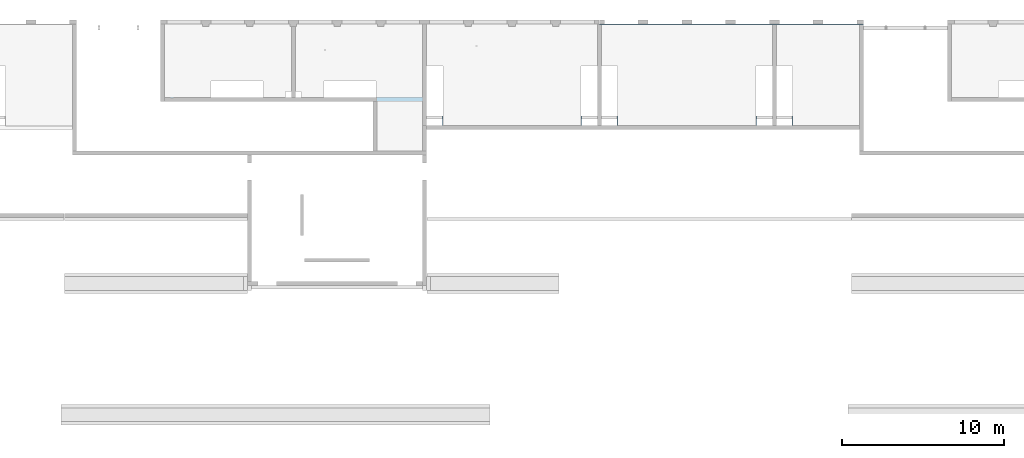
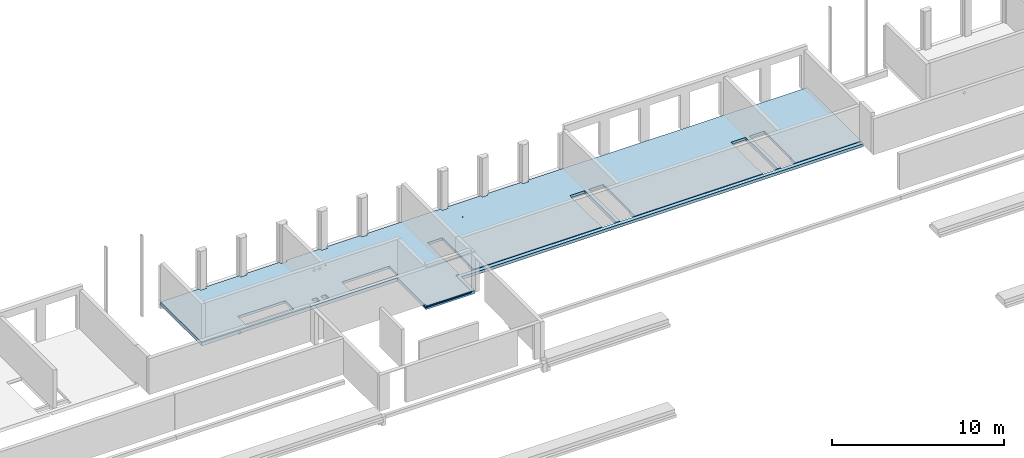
# One storey, part 16 of 18: 1 slab.
"""IFC2X3 building model written with IfcOpenShell, lengths in millimetres."""

from ifc_helpers import new_model, entity, si_unit, converted_unit, derived_unit, direction, frame, origin, place, context, subcontext, project, spatial, faceted_brep, element, save


model = new_model("IFC2X3")

# Units and contexts
model_context = context("Model", 3, precision=0.01, world=origin(), true_north=direction((6.12303176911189e-17, 1.0)))
body_context = subcontext(model_context, "Body", "Model", "MODEL_VIEW")
ifc_project = project(units=[si_unit("LENGTHUNIT", "METRE", prefix="MILLI"), si_unit("AREAUNIT", "SQUARE_METRE"), si_unit("VOLUMEUNIT", "CUBIC_METRE"), converted_unit("PLANEANGLEUNIT", "DEGREE", entity("IfcRatioMeasure", 0.0174532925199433), si_unit("PLANEANGLEUNIT", "RADIAN"), dimensions=[0, 0, 0, 0, 0, 0, 0]), si_unit("MASSUNIT", "GRAM", prefix="KILO"), derived_unit("MASSDENSITYUNIT", [(si_unit("MASSUNIT", "GRAM", prefix="KILO"), 1), (si_unit("LENGTHUNIT", "METRE"), -3)]), si_unit("TIMEUNIT", "SECOND"), si_unit("FREQUENCYUNIT", "HERTZ"), si_unit("THERMODYNAMICTEMPERATUREUNIT", "DEGREE_CELSIUS"), derived_unit("THERMALTRANSMITTANCEUNIT", [(si_unit("MASSUNIT", "GRAM", prefix="KILO"), 1), (si_unit("THERMODYNAMICTEMPERATUREUNIT", "KELVIN"), -1), (si_unit("TIMEUNIT", "SECOND"), -3)]), derived_unit("VOLUMETRICFLOWRATEUNIT", [(si_unit("LENGTHUNIT", "METRE"), 3), (si_unit("TIMEUNIT", "SECOND"), -1)]), si_unit("ELECTRICCURRENTUNIT", "AMPERE"), si_unit("ELECTRICVOLTAGEUNIT", "VOLT"), si_unit("POWERUNIT", "WATT"), si_unit("FORCEUNIT", "NEWTON", prefix="KILO"), si_unit("ILLUMINANCEUNIT", "LUX"), si_unit("LUMINOUSFLUXUNIT", "LUMEN"), si_unit("LUMINOUSINTENSITYUNIT", "CANDELA"), derived_unit("USERDEFINED", [(si_unit("MASSUNIT", "GRAM", prefix="KILO"), -1), (si_unit("LENGTHUNIT", "METRE"), -2), (si_unit("TIMEUNIT", "SECOND"), 3), (si_unit("LUMINOUSFLUXUNIT", "LUMEN"), 1)]), derived_unit("LINEARVELOCITYUNIT", [(si_unit("LENGTHUNIT", "METRE"), 1), (si_unit("TIMEUNIT", "SECOND"), -1)]), si_unit("PRESSUREUNIT", "PASCAL"), derived_unit("USERDEFINED", [(si_unit("LENGTHUNIT", "METRE"), -2), (si_unit("MASSUNIT", "GRAM", prefix="KILO"), 1), (si_unit("TIMEUNIT", "SECOND"), -2)])], contexts=[model_context])

# Site, building, storey
site_placement = place(None, origin())
site = spatial("IfcSite", under=ifc_project, at=site_placement, Name="Default", CompositionType="ELEMENT")
building_placement = place(site_placement, origin())
building = spatial("IfcBuilding", under=site, at=building_placement, Name="niet gebruiken", CompositionType="ELEMENT")
storey_placement = place(building_placement, frame((0.0, 0.0, 3690.0)))
storey = spatial("IfcBuildingStorey", under=building, at=storey_placement, Name="01 eerste verdieping", CompositionType="ELEMENT", Elevation=3690.00000000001)

# Slab
slab_placement = place(storey_placement, origin())
element("IfcSlab", 1, at=slab_placement, inside=storey, Name="Floor:NLRS_23.21_FL_breedplaat d=70/250_schil apart_gen", ObjectType="Floor:NLRS_23.21_FL_breedplaat d=70/250_schil apart_gen", PredefinedType="FLOOR", context=body_context, shape_type="Brep", body=[
    faceted_brep([(71295.0, 46746.0, -90.0), (71295.0, 46746.0, -130.0), (75700.0, 46746.0, -130.0), (75700.0, 46746.0, -90.0), (70075.0, 46746.0, -90.0), (70075.0, 46746.0, -130.0), (70325.0, 46746.0, -130.0), (70325.0, 46746.0, -90.0), (60495.0, 46746.0, -90.0), (60495.0, 46746.0, -130.0), (69105.0, 46746.0, -130.0), (69105.0, 46746.0, -90.0), (59275.0, 46746.0, -90.0), (59275.0, 46746.0, -130.0), (59525.0, 46746.0, -130.0), (59525.0, 46746.0, -90.0), (49695.0, 46746.0, -90.0), (49695.0, 46746.0, -130.0), (58305.0, 46746.0, -130.0), (58305.0, 46746.0, -90.0), (48474.9998491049, 46746.0, -90.0), (48474.9998491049, 46746.0, -130.0), (48725.0, 46746.0, -130.0), (48725.0, 46746.0, -90.0), (46105.0, 52846.0, -270.0), (46105.0, 53006.0, -270.0), (48495.0, 53006.0, -270.0), (45605.0, 49476.0, -270.0), (45695.0, 52846.0, -270.0), (48495.0, 48456.0, -270.0), (45605.0, 48476.0, -270.0), (45605.0, 48456.0, -270.0), (43405.0, 52846.0, -270.0), (42487.4999999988, 51406.0, -270.0), (42482.8124999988, 51397.8810118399, -270.0), (42478.1249999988, 51389.7620236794, -270.0), (42473.4374999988, 51381.643035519, -270.0), (42468.7499999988, 51373.5240473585, -270.0), (42405.0, 49476.0, -270.0), (42459.3749999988, 51373.5240473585, -270.0), (42450.0, 51373.5240473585, -270.0), (42440.6249999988, 51373.5240473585, -270.0), (42431.2499999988, 51373.5240473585, -270.0), (40975.0, 48826.0, -270.0), (42405.0, 48476.0, -270.0), (40975.0, 48476.0, -270.0), (42405.0, 48456.0, -270.0), (40975.0, 48456.0, -270.0), (42425.5871936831, 51383.3323156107, -270.0), (42419.9243873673, 51393.140583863, -270.0), (42416.212193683, 51399.5702919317, -270.0), (42412.4999999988, 51406.0, -270.0), (40625.0, 48826.0, -270.0), (40605.0, 48826.0, -270.0), (40605.0, 52846.0, -270.0), (40705.0, 52846.0, -270.0), (42417.1874999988, 51414.1189881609, -270.0), (42421.8749999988, 51422.2379763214, -270.0), (42426.5624999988, 51430.3569644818, -270.0), (42431.2499999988, 51438.4759526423, -270.0), (42995.0, 52846.0, -270.0), (42995.0, 53006.0, -270.0), (40705.0, 53006.0, -270.0), (42468.7499999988, 51438.4759526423, -270.0), (42459.3749999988, 51438.4759526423, -270.0), (42450.0, 51438.4759526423, -270.0), (42440.6249999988, 51438.4759526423, -270.0), (42483.7878062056, 51412.4297082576, -270.0), (42480.0756124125, 51418.8594165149, -270.0), (42474.4128062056, 51428.6676845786, -270.0), (45695.0, 53006.0, -270.0), (43405.0, 53006.0, -270.0), (38625.0, 48456.0, -270.0), (38625.0, 48476.0, -270.0), (38625.0, 49476.0, -270.0), (35425.0, 49476.0, -270.0), (35425.0, 48476.0, -270.0), (35425.0, 48456.0, -270.0), (32530.0, 48456.0, -270.0), (32530.0, 53006.0, -270.0), (34895.0, 53006.0, -270.0), (34895.0, 52846.0, -270.0), (35305.0, 52846.0, -270.0), (35305.0, 53006.0, -270.0), (37595.0, 53006.0, -270.0), (37595.0, 52846.0, -270.0), (38005.0, 52846.0, -270.0), (38005.0, 53006.0, -270.0), (40295.0, 53006.0, -270.0), (40295.0, 52846.0, -270.0), (40395.0, 52846.0, -270.0), (40395.0, 48826.0, -270.0), (40375.0, 48826.0, -270.0), (40025.0, 48826.0, -270.0), (40025.0, 48476.0, -270.0), (40025.0, 48456.0, -270.0), (45655.0, 45136.0, -270.0), (45655.0, 48246.0, -270.0), (48495.0, 48246.0, -270.0), (48495.0, 45136.0, -270.0), (71325.0, 47326.0, -270.0), (71325.0, 50426.0, -270.0), (70325.0, 50426.0, -270.0), (70305.0, 50426.0, -270.0), (70305.0, 52986.0, -270.0), (75470.0, 52986.0, -270.0), (75470.0, 46726.0, -270.0), (71325.0, 46726.0, -270.0), (60525.0, 47326.0, -270.0), (60525.0, 50426.0, -270.0), (59525.0, 50426.0, -270.0), (59505.0, 50426.0, -270.0), (59505.0, 52986.0, -270.0), (70095.0, 52986.0, -270.0), (70095.0, 50426.0, -270.0), (70075.0, 50426.0, -270.0), (69075.0, 50426.0, -270.0), (69075.0, 47326.0, -270.0), (69075.0, 46726.0, -270.0), (60525.0, 46726.0, -270.0), (51818.7499999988, 51623.5240473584, -270.0), (58275.0, 50426.0, -270.0), (58275.0, 47326.0, -270.0), (54205.0, 52845.5786066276, -270.0), (53795.0, 52845.5786066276, -270.0), (51823.4374999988, 51631.6430355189, -270.0), (49725.0, 47326.0, -270.0), (49725.0, 50426.0, -270.0), (51809.3749999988, 51623.5240473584, -270.0), (51828.1249999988, 51639.7620236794, -270.0), (51832.8124999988, 51647.8810118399, -270.0), (51837.4999999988, 51656.0, -270.0), (51833.7878062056, 51662.4297082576, -270.0), (51830.0756124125, 51668.8594165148, -270.0), (51824.4128062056, 51678.6676845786, -270.0), (51818.7499999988, 51688.4759526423, -270.0), (51505.0, 52845.5786066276, -270.0), (51809.3749999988, 51688.4759526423, -270.0), (51800.0, 51688.4759526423, -270.0), (51790.6249999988, 51688.4759526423, -270.0), (51781.2499999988, 51688.4759526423, -270.0), (51095.0, 52845.5786066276, -270.0), (51776.5624999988, 51680.3569644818, -270.0), (51771.8749999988, 51672.2379763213, -270.0), (51767.1874999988, 51664.1189881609, -270.0), (51762.4999999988, 51656.0, -270.0), (51766.212193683, 51649.5702919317, -270.0), (51769.9243873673, 51643.140583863, -270.0), (51775.5871936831, 51633.3323156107, -270.0), (51781.2499999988, 51623.5240473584, -270.0), (51790.6249999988, 51623.5240473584, -270.0), (51800.0, 51623.5240473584, -270.0), (48705.0, 53006.0, -270.0), (51095.0, 52846.0, -270.0), (53795.0, 52846.0, -270.0), (51505.0, 52846.0, -270.0), (53795.0, 53005.5786066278, -270.0), (51505.0, 53005.5786066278, -270.0), (56495.0, 52845.5786066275, -270.0), (54205.0, 52846.0, -270.0), (56495.0, 52846.0, -270.0), (54205.0, 53005.5786066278, -270.0), (56495.0, 53005.5786066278, -270.0), (56905.0, 52845.5786066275, -270.0), (59295.0, 53005.5786066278, -270.0), (56905.0, 52846.0, -270.0), (56905.0, 53005.5786066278, -270.0), (59275.0, 50426.0, -270.0), (59295.0, 50426.0, -270.0), (49725.0, 46726.0, -270.0), (58275.0, 46726.0, -270.0), (48725.0, 50426.0, -270.0), (48705.0, 50426.0, -270.0), (51095.0, 53006.0, -270.0), (75700.0, 53005.5786066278, -340.0), (75700.0, 52986.0, -340.0), (75470.0, 52986.0, -340.0), (70305.0, 52986.0, -340.0), (70095.0, 52986.0, -340.0), (59295.0, 53005.5786066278, -340.0), (75470.0, 46726.0, -340.0), (75700.0, 46496.0, -340.0), (75450.0, 46496.0, -340.0), (71325.0, 46726.0, -340.0), (69075.0, 46726.0, -340.0), (60525.0, 46726.0, -340.0), (48725.0, 46496.0, -340.0), (58275.0, 46726.0, -340.0), (49725.0, 46726.0, -340.0), (49695.0, 46746.0, -340.0), (48725.0, 46746.0, -340.0), (48495.0, 45136.0, -340.0), (48725.0, 44906.0, -340.0), (48475.0, 44906.0, -340.0), (45655.0, 45136.0, -340.0), (45425.0, 44906.0, -340.0), (45425.0, 45156.0, -340.0), (45425.0, 48226.0, -340.0), (45655.0, 48246.0, -340.0), (45605.0, 48456.0, -340.0), (45605.0, 48476.0, -340.0), (42405.0, 48476.0, -340.0), (42405.0, 48456.0, -340.0), (40975.0, 48456.0, -340.0), (40025.0, 48456.0, -340.0), (38625.0, 48456.0, -340.0), (32550.0, 48226.0, -340.0), (35425.0, 48456.0, -340.0), (32530.0, 48456.0, -340.0), (32300.0, 48226.0, -340.0), (32300.0, 53006.0, -340.0), (32530.0, 53006.0, -340.0), (35425.0, 48476.0, -340.0), (38625.0, 48476.0, -340.0), (40625.0, 48476.0, -340.0), (40375.0, 48476.0, -340.0), (40025.0, 48476.0, -340.0), (40395.0, 48826.0, -340.0), (40375.0, 48826.0, -340.0), (40605.0, 48826.0, -340.0), (40605.0, 52846.0, -340.0), (40395.0, 52846.0, -340.0), (40625.0, 48826.0, -340.0), (40975.0, 48476.0, -340.0), (48495.0, 48456.0, -340.0), (48725.0, 50426.0, -340.0), (48705.0, 50426.0, -340.0), (48495.0, 53006.0, -340.0), (48495.0, 48246.0, -340.0), (48705.0, 53006.0, -340.0), (49725.0, 47326.0, -340.0), (49695.0, 47326.0, -340.0), (59275.0, 46746.0, -340.0), (58305.0, 46746.0, -340.0), (58275.0, 47326.0, -340.0), (58305.0, 47326.0, -340.0), (59525.0, 46746.0, -340.0), (59505.0, 50426.0, -340.0), (59295.0, 50426.0, -340.0), (59275.0, 50426.0, -340.0), (59505.0, 52986.0, -340.0), (59525.0, 50426.0, -340.0), (60495.0, 46746.0, -340.0), (60525.0, 47326.0, -340.0), (60495.0, 47326.0, -340.0), (70075.0, 46746.0, -340.0), (69105.0, 46746.0, -340.0), (69075.0, 47326.0, -340.0), (69105.0, 47326.0, -340.0), (70325.0, 46746.0, -340.0), (70305.0, 50426.0, -340.0), (70095.0, 50426.0, -340.0), (70075.0, 50426.0, -340.0), (70325.0, 50426.0, -340.0), (71295.0, 46746.0, -340.0), (71325.0, 47326.0, -340.0), (71295.0, 47326.0, -340.0), (71325.0, 47326.0, -90.0), (71295.0, 47326.0, -90.0), (70325.0, 50426.0, -90.0), (69075.0, 47326.0, -90.0), (58275.0, 47326.0, -90.0), (69105.0, 47326.0, -90.0), (70075.0, 50426.0, -90.0), (69075.0, 50426.0, -90.0), (60525.0, 47326.0, -90.0), (59525.0, 50426.0, -90.0), (60495.0, 47326.0, -90.0), (75700.0, 53005.5786066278, -90.0), (60525.0, 50426.0, -90.0), (58275.0, 50426.0, -90.0), (59275.0, 50426.0, -90.0), (56905.0, 52845.5786066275, -90.0), (56905.0, 52846.0, -90.0), (49695.0, 47326.0, -90.0), (49725.0, 47326.0, -90.0), (58305.0, 47326.0, -90.0), (51818.7499999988, 51623.5240473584, -90.0), (49725.0, 50426.0, -90.0), (48725.0, 50426.0, -90.0), (51095.0, 52845.5786066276, -90.0), (56905.0, 53005.5786066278, -90.0), (71325.0, 50426.0, -90.0), (45474.999849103, 44906.0, -90.0), (48474.9998491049, 44906.0, -90.0), (45474.999849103, 45156.0, -90.0), (48474.9998491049, 45156.0, -90.0), (45425.0, 48226.0, -90.0), (45605.0, 48476.0, -90.0), (32550.0, 48226.0, -90.0), (32300.0, 53006.0, -90.0), (32300.0, 48226.0, -90.0), (40025.0, 48476.0, -90.0), (38625.0, 48476.0, -90.0), (42405.0, 48476.0, -90.0), (40975.0, 48476.0, -90.0), (35425.0, 48476.0, -90.0), (40025.0, 48826.0, -90.0), (45425.0, 45156.0, -90.0), (35425.0, 49476.0, -90.0), (40975.0, 48826.0, -90.0), (40625.0, 48476.0, -90.0), (42405.0, 49476.0, -90.0), (45605.0, 49476.0, -90.0), (42468.7499999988, 51373.5240473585, -90.0), (40625.0, 48826.0, -90.0), (42412.4999999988, 51406.0, -90.0), (42431.2499999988, 51373.5240473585, -90.0), (40375.0, 48476.0, -90.0), (40375.0, 48826.0, -90.0), (38625.0, 49476.0, -90.0), (40295.0, 52846.0, -90.0), (37595.0, 52846.0, -90.0), (46105.0, 52846.0, -90.0), (54205.0, 52845.5786066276, -90.0), (56495.0, 52845.5786066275, -90.0), (53795.0, 52846.0, -90.0), (51505.0, 52845.5786066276, -90.0), (53795.0, 52845.5786066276, -90.0), (54205.0, 52846.0, -90.0), (51837.4999999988, 51656.0, -90.0), (51833.7878063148, 51649.5702919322, -90.0), (51809.3749999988, 51623.5240473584, -90.0), (51781.2499999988, 51688.4759526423, -90.0), (51790.6249999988, 51688.4759526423, -90.0), (51762.4999999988, 51656.0, -90.0), (51766.2121936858, 51662.4297080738, -90.0), (51818.7499999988, 51688.4759526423, -90.0), (51823.4374999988, 51680.3569644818, -90.0), (51781.2499999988, 51623.5240473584, -90.0), (51776.5624999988, 51631.6430355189, -90.0), (56495.0, 52846.0, -90.0), (75700.0, 52986.0, -90.0), (54205.0, 53005.5786066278, -90.0), (56495.0, 53005.5786066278, -90.0), (51505.0, 52846.0, -90.0), (53795.0, 53005.5786066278, -90.0), (51505.0, 53005.5786066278, -90.0), (51095.0, 52846.0, -90.0), (42487.4999999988, 51406.0, -90.0), (42483.7878063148, 51399.5702919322, -90.0), (43405.0, 52846.0, -90.0), (42468.7499999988, 51438.4759526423, -90.0), (42473.4374999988, 51430.3569644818, -90.0), (42995.0, 52846.0, -90.0), (45695.0, 52846.0, -90.0), (45695.0, 53006.0, -90.0), (42431.2499999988, 51438.4759526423, -90.0), (42440.6249999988, 51438.4759526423, -90.0), (40705.0, 52846.0, -90.0), (42416.2121936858, 51412.4297080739, -90.0), (38005.0, 52846.0, -90.0), (40295.0, 53006.0, -90.0), (35305.0, 52846.0, -90.0), (42995.0, 53006.0, -90.0), (42459.3749999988, 51373.5240473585, -90.0), (43405.0, 53006.0, -90.0), (40705.0, 53006.0, -90.0), (38005.0, 53006.0, -90.0), (37595.0, 53006.0, -90.0), (34895.0, 52846.0, -90.0), (34895.0, 53006.0, -90.0), (35305.0, 53006.0, -90.0), (46105.0, 53006.0, -90.0), (51095.0, 53006.0, -90.0), (42426.5624999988, 51381.643035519, -90.0), (51828.1249999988, 51639.7620236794, -90.0), (51823.4374999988, 51631.6430355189, -90.0), (51800.0, 51623.5240473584, -90.0), (51790.6249999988, 51623.5240473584, -90.0), (51800.0, 51688.4759526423, -90.0), (51809.3749999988, 51688.4759526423, -90.0), (51769.9243873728, 51668.8594161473, -90.0), (51775.5871936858, 51678.6676843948, -90.0), (51828.1249999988, 51672.2379763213, -90.0), (51832.8124999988, 51664.1189881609, -90.0), (51771.8749999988, 51639.7620236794, -90.0), (51767.1874999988, 51647.8810118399, -90.0), (42478.1249999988, 51389.7620236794, -90.0), (42473.4374999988, 51381.643035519, -90.0), (42478.1249999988, 51422.2379763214, -90.0), (42482.8124999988, 51414.1189881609, -90.0), (42450.0, 51438.4759526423, -90.0), (42459.3749999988, 51438.4759526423, -90.0), (42419.9243873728, 51418.8594161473, -90.0), (42425.5871936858, 51428.6676843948, -90.0), (42450.0, 51373.5240473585, -90.0), (42440.6249999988, 51373.5240473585, -90.0), (42421.8749999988, 51389.7620236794, -90.0), (42417.1874999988, 51397.8810118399, -90.0), (48725.0, 44906.0, -220.0), (48725.0, 44906.0, -130.0), (48705.0, 44906.0, -130.0), (48474.9998491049, 44906.0, -130.0), (45474.999849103, 44906.0, -150.0), (48495.0, 44906.0, -150.0), (48495.0, 44906.0, -220.0), (45425.0, 44906.0, -220.0), (45425.0, 45156.0, -220.0), (75700.0, 46496.0, -130.0), (48725.0, 46496.0, -130.0), (48725.0, 46056.0, -130.0), (48725.0, 45156.0, -130.0), (48495.0, 44926.0, -150.0), (48495.0, 44926.0, -220.0), (45474.999849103, 44926.0, -220.0), (45474.999849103, 45156.0, -220.0), (45474.999849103, 44926.0, -150.0)], [[[0, 1, 2, 3]], [[4, 5, 6, 7]], [[8, 9, 10, 11]], [[12, 13, 14, 15]], [[16, 17, 18, 19]], [[20, 21, 22, 23]], [[24, 25, 26]], [[27, 24, 26]], [[28, 24, 27]], [[27, 26, 29]], [[30, 27, 29]], [[30, 29, 31]], [[28, 27, 32]], [[27, 33, 32]], [[27, 34, 33]], [[27, 35, 34]], [[27, 36, 35]], [[27, 37, 36]], [[27, 38, 37]], [[38, 39, 37]], [[38, 40, 39]], [[38, 41, 40]], [[38, 42, 41]], [[43, 42, 38]], [[44, 43, 38]], [[45, 43, 44]], [[44, 46, 45]], [[46, 47, 45]], [[43, 48, 42]], [[43, 49, 48]], [[43, 50, 49]], [[43, 51, 50]], [[52, 51, 43]], [[52, 53, 51]], [[54, 51, 53]], [[54, 55, 51]], [[55, 56, 51]], [[55, 57, 56]], [[55, 58, 57]], [[55, 59, 58]], [[55, 60, 59]], [[61, 60, 55]], [[61, 55, 62]], [[63, 60, 32]], [[60, 63, 64]], [[60, 64, 65]], [[60, 65, 66]], [[60, 66, 59]], [[32, 33, 67]], [[32, 67, 68]], [[32, 68, 69]], [[32, 69, 63]], [[32, 70, 28]], [[70, 32, 71]], [[72, 73, 74, 75, 76, 77, 78, 79, 80, 81, 82, 83, 84, 85, 86, 87, 88, 89, 90, 91, 92, 93, 94, 95]], [[96, 97, 98, 99]], [[100, 101, 102, 103, 104, 105, 106, 107]], [[108, 109, 110, 111, 112, 113, 114, 115, 116, 117, 118, 119]], [[24, 25, 26]], [[27, 24, 26]], [[28, 24, 27]], [[27, 26, 29]], [[30, 27, 29]], [[30, 29, 31]], [[28, 27, 32]], [[27, 33, 32]], [[27, 34, 33]], [[27, 35, 34]], [[27, 36, 35]], [[27, 37, 36]], [[27, 38, 37]], [[38, 39, 37]], [[38, 40, 39]], [[38, 41, 40]], [[38, 42, 41]], [[43, 42, 38]], [[44, 43, 38]], [[45, 43, 44]], [[44, 46, 45]], [[46, 47, 45]], [[43, 48, 42]], [[43, 49, 48]], [[43, 50, 49]], [[43, 51, 50]], [[52, 51, 43]], [[52, 53, 51]], [[54, 51, 53]], [[54, 55, 51]], [[55, 56, 51]], [[55, 57, 56]], [[55, 58, 57]], [[55, 59, 58]], [[55, 60, 59]], [[61, 60, 55]], [[61, 55, 62]], [[63, 60, 32]], [[60, 63, 64]], [[60, 64, 65]], [[60, 65, 66]], [[60, 66, 59]], [[32, 33, 67]], [[32, 67, 68]], [[32, 68, 69]], [[32, 69, 63]], [[32, 70, 28]], [[70, 32, 71]], [[72, 94, 95]], [[94, 72, 73]], [[93, 94, 73]], [[74, 93, 73]], [[74, 89, 93]], [[86, 89, 74]], [[74, 85, 86]], [[85, 74, 75]], [[75, 82, 85]], [[75, 81, 82]], [[75, 79, 81]], [[79, 75, 78]], [[78, 75, 76]], [[77, 78, 76]], [[81, 79, 80]], [[84, 85, 82]], [[82, 83, 84]], [[87, 89, 86]], [[88, 89, 87]], [[93, 89, 92]], [[89, 90, 92]], [[90, 91, 92]], [[96, 98, 99]], [[98, 96, 97]], [[100, 101, 106]], [[106, 107, 100]], [[105, 106, 101]], [[105, 101, 104]], [[102, 104, 101]], [[102, 103, 104]], [[108, 116, 117]], [[117, 119, 108]], [[116, 108, 109]], [[109, 112, 116]], [[112, 109, 110]], [[111, 112, 110]], [[116, 112, 113]], [[113, 115, 116]], [[113, 114, 115]], [[119, 117, 118]], [[120, 121, 122]], [[121, 120, 123]], [[123, 120, 124]], [[124, 120, 125]], [[120, 122, 126]], [[127, 120, 126]], [[127, 128, 120]], [[124, 125, 129]], [[124, 129, 130]], [[124, 130, 131]], [[124, 131, 132]], [[124, 132, 133]], [[124, 133, 134]], [[124, 134, 135]], [[124, 135, 136]], [[136, 135, 137]], [[136, 137, 138]], [[136, 138, 139]], [[136, 139, 140]], [[140, 141, 136]], [[141, 140, 142]], [[141, 142, 143]], [[141, 143, 144]], [[141, 144, 145]], [[145, 127, 141]], [[127, 145, 146]], [[127, 146, 147]], [[127, 147, 148]], [[127, 148, 149]], [[127, 149, 150]], [[127, 150, 151]], [[127, 151, 128]], [[127, 152, 141]], [[141, 152, 153]], [[154, 124, 136]], [[155, 154, 136]], [[155, 156, 154]], [[156, 155, 157]], [[123, 158, 121]], [[158, 123, 159]], [[160, 158, 159]], [[159, 161, 160]], [[160, 161, 162]], [[121, 158, 163]], [[164, 121, 163]], [[163, 165, 164]], [[165, 166, 164]], [[121, 164, 167]], [[168, 167, 164]], [[126, 122, 169]], [[122, 170, 169]], [[152, 127, 171]], [[152, 171, 172]], [[152, 173, 153]], [[174, 175, 176]], [[176, 177, 174]], [[174, 177, 178]], [[178, 179, 174]], [[176, 175, 180]], [[181, 180, 175]], [[180, 181, 182]], [[180, 182, 183]], [[183, 182, 184]], [[185, 184, 182]], [[182, 186, 185]], [[185, 186, 187]], [[186, 188, 187]], [[188, 186, 189]], [[190, 189, 186]], [[186, 191, 190]], [[191, 186, 192]], [[193, 191, 192]], [[194, 191, 193]], [[193, 195, 194]], [[196, 194, 195]], [[194, 196, 197]], [[197, 198, 194]], [[197, 199, 198]], [[199, 197, 200]], [[197, 201, 200]], [[202, 201, 197]], [[202, 197, 203]], [[204, 203, 197]], [[204, 197, 205]], [[205, 197, 206]], [[205, 206, 207]], [[208, 207, 206]], [[206, 209, 208]], [[208, 209, 210]], [[211, 208, 210]], [[212, 205, 207]], [[213, 205, 212]], [[203, 204, 214]], [[204, 215, 214]], [[216, 215, 204]], [[214, 215, 217]], [[215, 218, 217]], [[217, 219, 214]], [[220, 219, 217]], [[217, 221, 220]], [[219, 222, 214]], [[214, 223, 203]], [[224, 198, 199]], [[224, 225, 190]], [[225, 224, 226]], [[226, 224, 227]], [[224, 190, 228]], [[198, 224, 228]], [[191, 228, 190]], [[227, 229, 226]], [[188, 189, 230]], [[230, 189, 231]], [[232, 185, 187]], [[187, 233, 232]], [[234, 233, 187]], [[235, 233, 234]], [[232, 236, 185]], [[236, 232, 237]], [[238, 237, 232]], [[232, 239, 238]], [[240, 238, 179]], [[238, 240, 237]], [[236, 237, 241]], [[242, 185, 236]], [[243, 185, 242]], [[242, 244, 243]], [[245, 183, 184]], [[246, 245, 184]], [[184, 247, 246]], [[246, 247, 248]], [[245, 249, 183]], [[250, 249, 245]], [[251, 250, 245]], [[245, 252, 251]], [[250, 251, 178]], [[178, 177, 250]], [[179, 178, 240]], [[253, 249, 250]], [[254, 183, 249]], [[254, 255, 183]], [[256, 255, 254]], [[257, 0, 3]], [[258, 0, 257]], [[4, 7, 259]], [[11, 260, 8]], [[261, 16, 19]], [[260, 11, 262]], [[259, 263, 4]], [[264, 265, 260]], [[266, 12, 15]], [[267, 8, 265]], [[264, 263, 268]], [[269, 265, 264]], [[270, 271, 272]], [[273, 271, 266]], [[12, 266, 271]], [[274, 16, 275]], [[19, 276, 261]], [[16, 261, 275]], [[277, 278, 275]], [[261, 270, 277]], [[279, 278, 280]], [[261, 277, 275]], [[281, 266, 269]], [[265, 8, 260]], [[257, 3, 282]], [[283, 284, 285]], [[285, 284, 286]], [[287, 20, 288]], [[286, 20, 285]], [[285, 20, 287]], [[289, 290, 291]], [[287, 292, 293]], [[287, 293, 289]], [[287, 294, 295]], [[293, 296, 289]], [[293, 292, 297]], [[298, 285, 287]], [[299, 289, 296]], [[300, 295, 294]], [[287, 295, 301]], [[302, 303, 304]], [[279, 303, 288]], [[305, 300, 306]], [[300, 294, 302]], [[307, 300, 302]], [[287, 288, 294]], [[288, 20, 279]], [[287, 308, 292]], [[309, 308, 301]], [[297, 310, 293]], [[311, 297, 309]], [[305, 309, 301]], [[312, 299, 310]], [[306, 309, 305]], [[311, 310, 297]], [[279, 313, 303]], [[287, 301, 308]], [[279, 20, 23]], [[290, 289, 299]], [[269, 264, 281]], [[314, 270, 315]], [[272, 271, 273]], [[277, 270, 314]], [[316, 317, 318]], [[315, 270, 272]], [[314, 315, 319]], [[259, 282, 268]], [[277, 314, 318]], [[318, 320, 321]], [[278, 277, 322]], [[317, 323, 324]], [[280, 323, 317]], [[280, 325, 326]], [[318, 327, 328]], [[318, 317, 327]], [[280, 278, 325]], [[278, 329, 330]], [[319, 315, 331]], [[282, 332, 268]], [[266, 281, 273]], [[333, 331, 334]], [[281, 264, 268]], [[331, 333, 319]], [[316, 335, 317]], [[335, 336, 337]], [[336, 335, 316]], [[338, 313, 279]], [[282, 3, 332]], [[338, 279, 280]], [[303, 339, 340]], [[341, 342, 343]], [[341, 339, 303]], [[344, 342, 341]], [[345, 346, 341]], [[341, 303, 345]], [[345, 303, 313]], [[344, 347, 348]], [[349, 306, 350]], [[306, 311, 309]], [[351, 310, 311]], [[310, 351, 312]], [[311, 352, 351]], [[306, 349, 311]], [[347, 344, 349]], [[312, 353, 299]], [[344, 354, 349]], [[302, 304, 355]], [[341, 346, 356]], [[354, 357, 349]], [[352, 358, 351]], [[353, 312, 359]], [[360, 299, 353]], [[290, 360, 361]], [[353, 359, 362]], [[290, 299, 360]], [[363, 313, 364]], [[338, 364, 313]], [[300, 307, 365]], [[268, 263, 259]], [[318, 321, 366]], [[318, 366, 367]], [[318, 367, 277]], [[278, 322, 368]], [[278, 368, 369]], [[278, 369, 329]], [[317, 324, 370]], [[317, 370, 371]], [[317, 371, 327]], [[280, 326, 372]], [[280, 372, 373]], [[280, 373, 323]], [[318, 328, 374]], [[318, 374, 375]], [[318, 375, 320]], [[278, 330, 376]], [[278, 376, 377]], [[278, 377, 325]], [[303, 340, 378]], [[303, 378, 379]], [[303, 379, 304]], [[341, 343, 380]], [[341, 380, 381]], [[341, 381, 339]], [[344, 348, 382]], [[344, 382, 383]], [[344, 383, 342]], [[349, 350, 384]], [[349, 384, 385]], [[349, 385, 347]], [[302, 355, 386]], [[302, 386, 387]], [[302, 387, 307]], [[300, 365, 388]], [[300, 388, 389]], [[300, 389, 306]], [[192, 390, 391, 392, 393, 284, 283, 394, 395, 396, 397, 195, 193]], [[196, 195, 397, 398, 298, 287, 197]], [[210, 209, 291, 290]], [[79, 211, 210, 290, 361, 80]], [[84, 83, 362, 359]], [[88, 87, 358, 352]], [[61, 62, 357, 354]], [[70, 71, 356, 346]], [[152, 229, 227, 26, 25, 363, 364, 173]], [[206, 197, 287, 289, 291, 209]], [[81, 80, 361, 360]], [[82, 81, 360, 353]], [[86, 85, 312, 351]], [[54, 220, 221, 90, 89, 311, 349, 55]], [[32, 60, 344, 341]], [[24, 28, 345, 313]], [[83, 82, 353, 362]], [[85, 84, 359, 312]], [[87, 86, 351, 358]], [[89, 88, 352, 311]], [[62, 55, 349, 357]], [[60, 61, 354, 344]], [[71, 32, 341, 356]], [[28, 70, 346, 345]], [[25, 24, 313, 363]], [[153, 173, 364, 338, 280, 141]], [[136, 141, 280, 317]], [[123, 124, 318, 314]], [[163, 158, 315, 272]], [[155, 136, 317, 335, 337, 157]], [[156, 157, 337, 336]], [[162, 161, 333, 334]], [[164, 166, 281, 268, 174, 179]], [[154, 156, 336, 316, 318, 124]], [[159, 123, 314, 319, 333, 161]], [[160, 162, 334, 331, 315, 158]], [[165, 163, 272, 273, 281, 166]], [[2, 399, 181, 175, 174, 268, 332, 3]], [[182, 181, 399, 400, 186]], [[390, 192, 186, 400, 401, 402, 391]], [[279, 23, 22, 190, 225, 171]], [[310, 299, 75, 74]], [[303, 302, 38, 27]], [[293, 310, 74, 73]], [[296, 293, 73, 213, 212, 76]], [[294, 288, 30, 200, 201, 44]], [[94, 292, 308, 215, 216]], [[301, 295, 45, 223, 214]], [[299, 296, 76, 75]], [[288, 303, 27, 30]], [[302, 294, 44, 38]], [[16, 274, 231, 189, 17]], [[22, 17, 189, 190]], [[18, 13, 232, 233]], [[14, 9, 242, 236]], [[10, 5, 245, 246]], [[6, 1, 254, 249]], [[12, 271, 167, 239, 232, 13]], [[276, 19, 18, 233, 235]], [[8, 267, 244, 242, 9]], [[266, 15, 14, 236, 241, 110]], [[4, 263, 115, 252, 245, 5]], [[262, 11, 10, 246, 248]], [[0, 258, 256, 254, 1]], [[259, 7, 6, 249, 253, 102]], [[102, 101, 282, 259]], [[116, 115, 263, 264]], [[121, 167, 271, 270]], [[110, 109, 269, 266]], [[171, 127, 278, 279]], [[100, 255, 256, 258, 257]], [[117, 260, 262, 248, 247]], [[122, 261, 276, 235, 234]], [[108, 243, 244, 267, 265]], [[126, 230, 231, 274, 275]], [[100, 257, 282, 101]], [[116, 264, 260, 117]], [[121, 270, 261, 122]], [[108, 265, 269, 109]], [[126, 275, 278, 127]], [[400, 399, 2, 1, 6, 5, 10, 9, 14, 13, 18, 17, 22, 21, 393, 392, 391, 402, 401]], [[286, 284, 393, 21, 20]], [[90, 221, 217, 91]], [[92, 91, 217, 218]], [[52, 222, 219, 53]], [[94, 216, 204, 95]], [[95, 204, 205, 72]], [[77, 207, 208, 78]], [[46, 202, 203, 47]], [[29, 224, 199, 31]], [[72, 205, 213, 73]], [[76, 212, 207, 77]], [[78, 208, 211, 79]], [[53, 219, 220, 54]], [[45, 47, 203, 223]], [[44, 201, 202, 46]], [[31, 199, 200, 30]], [[26, 227, 224, 29]], [[98, 228, 191, 99]], [[395, 403, 404, 396]], [[99, 191, 194, 96]], [[96, 194, 198, 97]], [[97, 198, 228, 98]], [[405, 406, 398, 397, 396, 404]], [[403, 395, 394, 407]], [[407, 405, 404, 403]], [[105, 104, 177, 176]], [[112, 240, 178, 113]], [[103, 250, 177, 104]], [[103, 102, 253, 250]], [[110, 241, 237, 111]], [[114, 251, 252, 115]], [[172, 171, 225, 226]], [[168, 238, 239, 167]], [[107, 183, 255, 100]], [[106, 180, 183, 107]], [[118, 184, 185, 119]], [[170, 187, 188, 169]], [[106, 105, 176, 180]], [[111, 237, 240, 112]], [[119, 185, 243, 108]], [[113, 178, 251, 114]], [[117, 247, 184, 118]], [[172, 226, 229, 152]], [[169, 188, 230, 126]], [[164, 179, 238, 168]], [[122, 234, 187, 170]], [[298, 398, 406, 285]], [[405, 407, 394, 283, 285, 406]], [[93, 92, 309, 297]], [[300, 305, 52, 43]], [[93, 297, 292, 94]], [[92, 218, 215, 308, 309]], [[295, 300, 43, 45]], [[305, 301, 214, 222, 52]], [[148, 147, 146, 145, 325, 377, 376, 330, 329, 149]], [[368, 322, 277, 120, 128, 151, 150, 149, 329, 369]], [[120, 277, 367, 366, 321, 320, 131, 130, 129, 125]], [[375, 374, 328, 327, 135, 134, 133, 132, 131, 320]], [[371, 370, 324, 323, 140, 139, 138, 137, 135, 327]], [[140, 323, 373, 372, 326, 325, 145, 144, 143, 142]], [[48, 49, 50, 51, 306, 389, 388, 365, 307, 42]], [[386, 355, 304, 37, 39, 40, 41, 42, 307, 387]], [[37, 304, 379, 378, 340, 339, 33, 34, 35, 36]], [[381, 380, 343, 342, 63, 69, 68, 67, 33, 339]], [[383, 382, 348, 347, 59, 66, 65, 64, 63, 342]], [[59, 347, 385, 384, 350, 306, 51, 56, 57, 58]]]),
])

save(model, "model.ifc")
